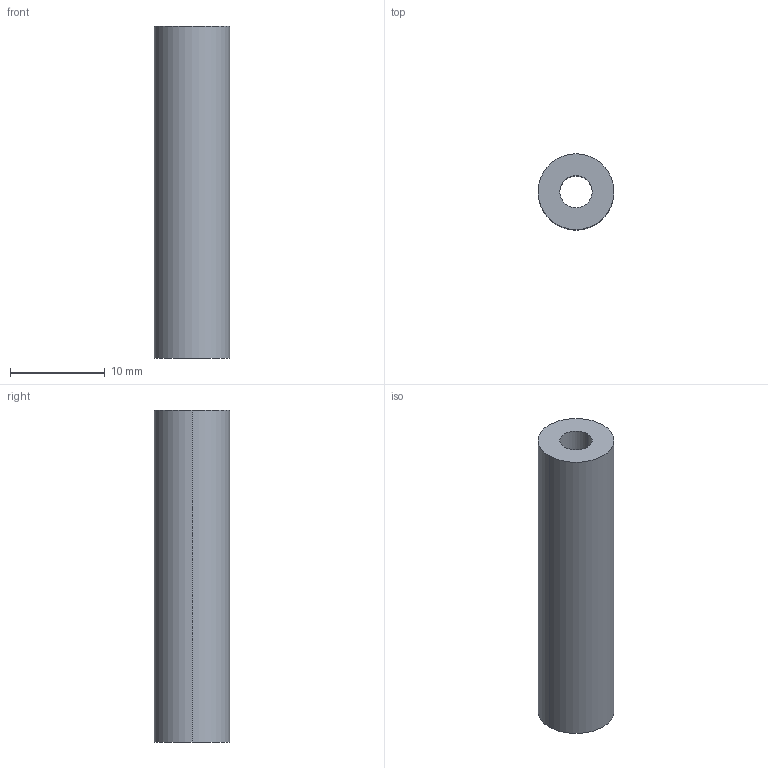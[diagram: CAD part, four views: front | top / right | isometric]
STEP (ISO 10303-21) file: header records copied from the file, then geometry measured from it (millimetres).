
FILE_DESCRIPTION (( 'STEP AP203' ), '1' );
FILE_NAME ('05_pcb_standoff_35.step', '2026-09-30T11:36:30', ( '' ), ( '' ), 'SwSTEP 2.0', 'SolidWorks 2025', '' );
FILE_SCHEMA (( 'CONFIG_CONTROL_DESIGN' ));
Length unit declared in the file: millimetre
Products named in the file (1): 05_pcb_standoff_35
Bounding box: 8 x 8 x 35 mm (x, y, z)
Volume: 1441.5 mm3; surface area: 1335.9 mm2
Topology: 1 solids, 1 shells, 6 faces, 12 edges, 8 vertices
Faces by surface type: cylinder 4, plane 2
Entity records: 245 total; most frequent: DIRECTION 34, CARTESIAN_POINT 27, ORIENTED_EDGE 24, AXIS2_PLACEMENT_3D 15, EDGE_CURVE 12, EDGE_LOOP 8, CIRCLE 8, VERTEX_POINT 8
